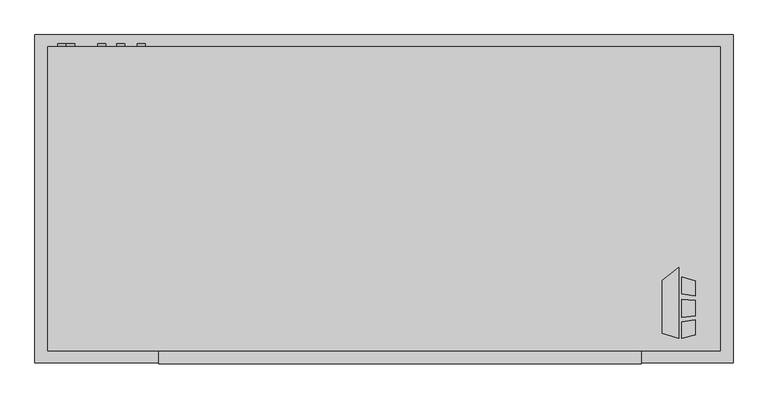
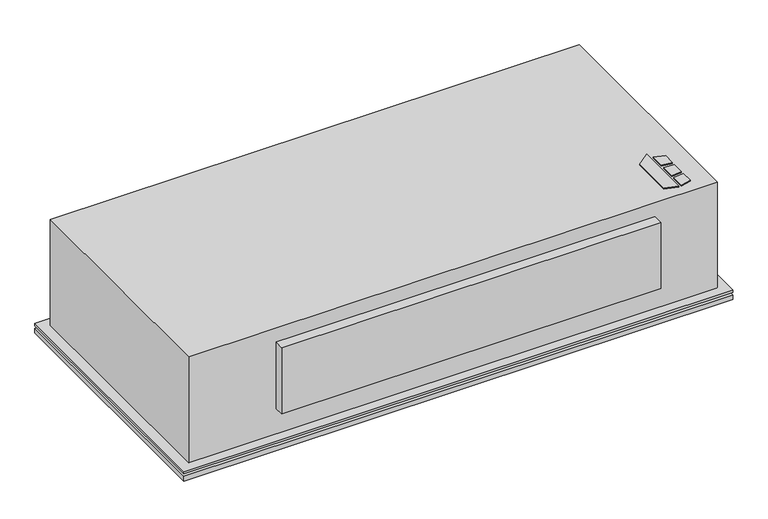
"""IFC4 building model written with IfcOpenShell, lengths in millimetres: proxy geometry, Horizontal_Telescoping_Fan_Coil_Unit_-_CBY_-_IEC_-_4-Pipe_LH_2022 : Size 08 - 277v/60Hz/1Ph - 4/1 Coil."""

import ifcopenshell
import ifcopenshell.guid

model = None  # the IFC model being written
_history = None  # IfcOwnerHistory: only IFC2X3 demands one
_inside = {}  # id of a spatial element -> (the spatial element, [elements in it])
_under = {}  # id of a project, library or spatial element -> (it, [spatial elements below it])
_declared = {}  # id of a project -> (the project, [libraries it declares])
_typed = {}  # id of a type object -> (the type object, [elements of that type])
_made_of = {}  # id of a material, layer set ... -> (it, [elements and type objects made of it])


def new_model(schema):
    """Start an empty IFC model of exactly this schema.

    Asked for "IFC4X3", IfcOpenShell would pick the latest addendum, in which some entities
    have other attributes; the version numbers below select the first issue.
    IFC2X3 requires an IfcOwnerHistory on every rooted entity: one is made here for all.
    """
    global model, _history
    if schema == "IFC4X3":
        model = ifcopenshell.file(schema_version=(4, 3, 0, 0))
    else:
        model = ifcopenshell.file(schema=schema)
    _inside.clear()
    _under.clear()
    _declared.clear()
    _typed.clear()
    _made_of.clear()
    _history = None
    if model.schema == "IFC2X3":
        org = make("IfcOrganization", Name="unknown")
        user = make(
            "IfcPersonAndOrganization",
            ThePerson=make("IfcPerson", FamilyName="unknown"),
            TheOrganization=org,
        )
        app = make(
            "IfcApplication",
            ApplicationDeveloper=org,
            Version="unknown",
            ApplicationFullName="unknown",
            ApplicationIdentifier="unknown",
        )
        _history = make(
            "IfcOwnerHistory",
            OwningUser=user,
            OwningApplication=app,
            ChangeAction="ADDED",
            CreationDate=0,
        )
    return model


def make(cls, **values):
    """One entity of the class cls with the attributes given. An attribute that is None is left unset."""
    return model.create_entity(
        cls, **{name: value for name, value in values.items() if value is not None}
    )


def rooted(cls, **values):
    """An entity with a GlobalId (a new one), such as an element, a storey or a relation."""
    return make(cls, GlobalId=ifcopenshell.guid.new(), OwnerHistory=_history, **values)


def si_unit(unit_type, name, prefix=None):
    """IfcSIUnit, for example si_unit("LENGTHUNIT", "METRE", prefix="MILLI")."""
    return make("IfcSIUnit", UnitType=unit_type, Prefix=prefix, Name=name)


def assignment(units):
    """IfcUnitAssignment: the units of a project."""
    return None if units is None else make("IfcUnitAssignment", Units=units)


def point(xyz):
    """IfcCartesianPoint."""
    return None if xyz is None else make("IfcCartesianPoint", Coordinates=xyz)


def direction(xyz):
    """IfcDirection."""
    return None if xyz is None else make("IfcDirection", DirectionRatios=xyz)


def frame(location, z_axis=None, x_axis=None):
    """IfcAxis2Placement3D, a coordinate frame: its origin and axes. An axis left out is left unset."""
    return make(
        "IfcAxis2Placement3D",
        Location=point(location),
        Axis=direction(z_axis),
        RefDirection=direction(x_axis),
    )


def frame_2d(location, x_axis=None):
    """IfcAxis2Placement2D, a coordinate frame in the plane: its origin and x axis."""
    return make(
        "IfcAxis2Placement2D", Location=point(location), RefDirection=direction(x_axis)
    )


def origin():
    """The frame at (0, 0, 0) with its axes left unset."""
    return frame((0.0, 0.0, 0.0))


def origin_with_axes():
    """The frame at (0, 0, 0) with the z axis (0, 0, 1) and the x axis (1, 0, 0) written out."""
    return frame((0.0, 0.0, 0.0), z_axis=(0.0, 0.0, 1.0), x_axis=(1.0, 0.0, 0.0))


def place(relative_to, where):
    """IfcLocalPlacement: puts the frame where relative to a parent placement (None: the world)."""
    return make(
        "IfcLocalPlacement", PlacementRelTo=relative_to, RelativePlacement=where
    )


def context(
    kind, dimensions, precision=None, world=None, true_north=None, identifier=None
):
    """IfcGeometricRepresentationContext, for example the 3D "Model" context."""
    return make(
        "IfcGeometricRepresentationContext",
        ContextIdentifier=identifier,
        ContextType=kind,
        CoordinateSpaceDimension=dimensions,
        Precision=precision,
        WorldCoordinateSystem=world,
        TrueNorth=true_north,
    )


def project(units=None, contexts=None):
    """IfcProject with its units and contexts."""
    return rooted(
        "IfcProject",
        Name="project",
        RepresentationContexts=contexts,
        UnitsInContext=assignment(units),
    )


def spatial(cls, under=None, at=None, **own):
    """A site, building, storey or space (cls), placed at a placement, below another one or the project."""
    s = rooted(cls, ObjectPlacement=at, **own)
    if under is not None:
        _under.setdefault(under.id(), (under, []))[1].append(s)
    return s


def polyline(points):
    """IfcPolyline through the points."""
    return make("IfcPolyline", Points=[point(p) for p in points])


def circle_curve(where, radius):
    """IfcCircle in the frame where."""
    return make("IfcCircle", Position=where, Radius=radius)


def trimmed(basis, trim1, trim2, sense, master):
    """IfcTrimmedCurve: the piece of a basis curve between two trims."""
    return make(
        "IfcTrimmedCurve",
        BasisCurve=basis,
        Trim1=trim1,
        Trim2=trim2,
        SenseAgreement=sense,
        MasterRepresentation=master,
    )


def segment(curve, same_sense, transition):
    """IfcCompositeCurveSegment."""
    return make(
        "IfcCompositeCurveSegment",
        Transition=transition,
        SameSense=same_sense,
        ParentCurve=curve,
    )


def composite_curve(segments, self_intersect=None):
    """IfcCompositeCurve: segments joined end to end."""
    return make("IfcCompositeCurve", Segments=segments, SelfIntersect=self_intersect)


def outline(outer, holes=None, kind="AREA"):
    """IfcArbitraryClosedProfileDef: a profile drawn as a closed curve; with holes, ...WithVoids."""
    if holes is None:
        return make("IfcArbitraryClosedProfileDef", ProfileType=kind, OuterCurve=outer)
    return make(
        "IfcArbitraryProfileDefWithVoids",
        ProfileType=kind,
        OuterCurve=outer,
        InnerCurves=holes,
    )


def extrude(swept, where, along, depth):
    """IfcExtrudedAreaSolid: the profile swept, set in the frame where, extruded along a direction by depth."""
    return make(
        "IfcExtrudedAreaSolid",
        SweptArea=swept,
        Position=where,
        ExtrudedDirection=direction(along),
        Depth=depth,
    )


def shape(context_of_items, identifier, shape_type, items):
    """IfcShapeRepresentation: the items that make up one representation, for example the "Body"."""
    return make(
        "IfcShapeRepresentation",
        ContextOfItems=context_of_items,
        RepresentationIdentifier=identifier,
        RepresentationType=shape_type,
        Items=items,
    )


def source(mapping_origin, context_of_items, identifier, shape_type, items):
    """IfcRepresentationMap: a shape defined once, which mapped items show again and again."""
    return make(
        "IfcRepresentationMap",
        MappingOrigin=mapping_origin,
        MappedRepresentation=shape(context_of_items, identifier, shape_type, items),
    )


def transform(
    local_origin,
    x_axis=None,
    y_axis=None,
    z_axis=None,
    scale=None,
    scale2=None,
    scale3=None,
    uniform=True,
):
    """IfcCartesianTransformationOperator3D, or its non-uniform kind. x_axis, y_axis, z_axis: its Axis1, 2, 3."""
    if uniform:
        return make(
            "IfcCartesianTransformationOperator3D",
            Axis1=direction(x_axis),
            Axis2=direction(y_axis),
            LocalOrigin=point(local_origin),
            Scale=scale,
            Axis3=direction(z_axis),
        )
    return make(
        "IfcCartesianTransformationOperator3DnonUniform",
        Axis1=direction(x_axis),
        Axis2=direction(y_axis),
        LocalOrigin=point(local_origin),
        Scale=scale,
        Axis3=direction(z_axis),
        Scale2=scale2,
        Scale3=scale3,
    )


def mapped(mapping_source, mapping_target):
    """IfcMappedItem: shows the shape of a source again, moved by a transform."""
    return make(
        "IfcMappedItem", MappingSource=mapping_source, MappingTarget=mapping_target
    )


def made_of(thing, what):
    """Note that an element or type object is made of a material, layer set ...; save() writes the relation."""
    if what is not None:
        _made_of.setdefault(what.id(), (what, []))[1].append(thing)
    return thing


def element(
    cls,
    number,
    at=None,
    inside=None,
    cuts=None,
    type_object=None,
    material=None,
    context=None,
    identifier="Body",
    shape_type=None,
    held_by="IfcProductDefinitionShape",
    body=None,
    shapes=None,
    **own,
):
    """One element of the class cls, such as IfcWall. Its Tag is "e" and its number.

    at: its placement. inside: the storey or other place that contains it. cuts: it is an
    opening in that element (IfcRelVoidsElement). A single representation is given by context,
    identifier, shape_type and body (its items); several are given by shapes. held_by: the class
    of the entity that holds the representations. save() writes the other relations.
    """
    e = rooted(cls, Tag="e%d" % number, ObjectPlacement=at, **own)
    if body is not None:
        shapes = [shape(context, identifier, shape_type, body)]
    if shapes is not None:
        e.Representation = make(held_by, Representations=shapes)
    if inside is not None:
        _inside.setdefault(inside.id(), (inside, []))[1].append(e)
    if cuts is not None:
        rooted(
            "IfcRelVoidsElement", RelatingBuildingElement=cuts, RelatedOpeningElement=e
        )
    if type_object is not None:
        _typed.setdefault(type_object.id(), (type_object, []))[1].append(e)
    return made_of(e, material)


def aggregate(whole, parts):
    """IfcRelAggregates: a whole, such as a stair, and the parts it consists of."""
    return rooted("IfcRelAggregates", RelatingObject=whole, RelatedObjects=parts)


def save(model, path):
    """Write the relations noted so far, then the file.

    IfcRelAggregates (storeys below a building ...), IfcRelContainedInSpatialStructure (elements
    in a storey), IfcRelDefinesByType, IfcRelAssociatesMaterial and IfcRelDeclares: one each for
    every whole, place, type object, material and project.
    """
    for whole, parts in _under.values():
        aggregate(whole, parts)
    for where, things in _inside.values():
        rooted(
            "IfcRelContainedInSpatialStructure",
            RelatedElements=things,
            RelatingStructure=where,
        )
    for kind, things in _typed.values():
        rooted("IfcRelDefinesByType", RelatedObjects=things, RelatingType=kind)
    for what, things in _made_of.values():
        rooted("IfcRelAssociatesMaterial", RelatedObjects=things, RelatingMaterial=what)
    for by, libraries in _declared.values():
        rooted("IfcRelDeclares", RelatingContext=by, RelatedDefinitions=libraries)
    model.write(path)


def mechanical_equipment_48fb63d9(model_context):
    return source(origin(), model_context, "Body", "SweptSolid", [
        extrude(outline(polyline([(709.3019761, -401.0078476), (741.8602728, -375.5705184), (741.8602728, -517.525), (709.3019761, -507.3054201), (709.3019761, -401.0078476)])), origin_with_axes(), (0.0, 0.0, 1.0), 3.175),
        extrude(outline(polyline([(748.6186058, -428.879852), (748.6186058, -394.3999379), (774.7, -402.5865115), (774.7, -432.0822446), (748.6186058, -428.879852)])), origin_with_axes(), (0.0, 0.0, 1.0), 3.175),
        extrude(outline(polyline([(774.7, -510.5365115), (748.6186058, -517.525), (748.6186058, -484.3036996), (774.7, -480.7618564), (774.7, -510.5365115)])), origin_with_axes(), (0.0, 0.0, 1.0), 3.175),
        extrude(outline(polyline([(774.7, -441.1638277), (774.7, -472.413983), (748.6186058, -475.155248), (748.6186058, -439.2975378), (774.7, -441.1638277)])), origin_with_axes(), (0.0, 0.0, 1.0), 3.175),
        extrude(outline(composite_curve([segment(trimmed(circle_curve(frame_2d((-60.325, -333.375)), 7.9375), [point((-60.325, -325.4375))], [point((-60.325, -341.3125))], False, "CARTESIAN"), True, "CONTINUOUS"), segment(trimmed(circle_curve(frame_2d((-60.325, -333.375)), 7.9375), [point((-60.325, -341.3125))], [point((-60.325, -325.4375))], False, "CARTESIAN"), True, "CONTINUOUS")], self_intersect=False)), frame((0.0, 66.675, 0.0), z_axis=(0.0, 1.0, 0.0), x_axis=(0.0, 0.0, 1.0)), (0.0, 0.0, 1.0), 6.35),
        extrude(outline(composite_curve([segment(trimmed(circle_curve(frame_2d((-95.25, -374.65)), 7.9375), [point((-95.25, -366.7125))], [point((-95.25, -382.5875))], False, "CARTESIAN"), True, "CONTINUOUS"), segment(trimmed(circle_curve(frame_2d((-95.25, -374.65)), 7.9375), [point((-95.25, -382.5875))], [point((-95.25, -366.7125))], False, "CARTESIAN"), True, "CONTINUOUS")], self_intersect=False)), frame((0.0, 66.675, 0.0), z_axis=(0.0, 1.0, 0.0), x_axis=(0.0, 0.0, 1.0)), (0.0, 0.0, 1.0), 6.35),
        extrude(outline(composite_curve([segment(trimmed(circle_curve(frame_2d((-44.45, -412.75)), 7.9375), [point((-44.45, -404.8125))], [point((-44.45, -420.6875))], False, "CARTESIAN"), True, "CONTINUOUS"), segment(trimmed(circle_curve(frame_2d((-44.45, -412.75)), 7.9375), [point((-44.45, -420.6875))], [point((-44.45, -404.8125))], False, "CARTESIAN"), True, "CONTINUOUS")], self_intersect=False)), frame((0.0, 66.675, 0.0), z_axis=(0.0, 1.0, 0.0), x_axis=(0.0, 0.0, 1.0)), (0.0, 0.0, 1.0), 6.35),
        extrude(outline(composite_curve([segment(trimmed(circle_curve(frame_2d((-85.725, -492.125)), 7.9375), [point((-85.725, -484.1875))], [point((-85.725, -500.0625))], False, "CARTESIAN"), True, "CONTINUOUS"), segment(trimmed(circle_curve(frame_2d((-85.725, -492.125)), 7.9375), [point((-85.725, -500.0625))], [point((-85.725, -484.1875))], False, "CARTESIAN"), True, "CONTINUOUS")], self_intersect=False)), frame((0.0, 66.675, 0.0), z_axis=(0.0, 1.0, 0.0), x_axis=(0.0, 0.0, 1.0)), (0.0, 0.0, 1.0), 6.35),
        extrude(outline(composite_curve([segment(trimmed(circle_curve(frame_2d((-260.35, -476.25)), 9.525), [point((-260.35, -466.725))], [point((-260.35, -485.775))], False, "CARTESIAN"), True, "CONTINUOUS"), segment(trimmed(circle_curve(frame_2d((-260.35, -476.25)), 9.525), [point((-260.35, -485.775))], [point((-260.35, -466.725))], False, "CARTESIAN"), True, "CONTINUOUS")], self_intersect=False)), frame((0.0, 66.675, 0.0), z_axis=(0.0, 1.0, 0.0), x_axis=(0.0, 0.0, 1.0)), (0.0, 0.0, 1.0), 6.35),
        extrude(outline(polyline([(850.9, 90.4875), (850.9, -566.7375), (-546.1, -566.7375), (-546.1, 90.4875), (850.9, 90.4875)])), frame((0.0, 0.0, -311.15), z_axis=(0.0, 0.0, 1.0), x_axis=(1.0, 0.0, 0.0)), (0.0, 0.0, 1.0), 12.7),
        extrude(outline(polyline([(850.9, 90.4875), (850.9, -566.7375), (-546.1, -566.7375), (-546.1, 90.4875), (850.9, 90.4875)])), frame((0.0, 0.0, -292.1), z_axis=(0.0, 0.0, 1.0), x_axis=(1.0, 0.0, 0.0)), (0.0, 0.0, 1.0), 6.35),
        extrude(outline(polyline([(825.5, 65.0875), (825.5, -541.3375), (-520.7, -541.3375), (-520.7, 65.0875), (825.5, 65.0875)])), frame((0.0, 0.0, -298.45), z_axis=(0.0, 0.0, 1.0), x_axis=(1.0, 0.0, 0.0)), (0.0, 0.0, 1.0), 6.35),
        extrude(outline(polyline([(666.75, -568.325), (-298.45, -568.325), (-298.45, -542.925), (666.75, -542.925), (666.75, -568.325)])), frame((0.0, 0.0, -215.9), z_axis=(0.0, 0.0, 1.0), x_axis=(1.0, 0.0, 0.0)), (0.0, 0.0, 1.0), 177.8),
        extrude(outline(polyline([(-520.7, 66.675), (825.5, 66.675), (825.5, -542.925), (-520.7, -542.925), (-520.7, 66.675)])), frame((0.0, 0.0, -285.75), z_axis=(0.0, 0.0, 1.0), x_axis=(1.0, 0.0, 0.0)), (0.0, 0.0, 1.0), 285.75),
        extrude(outline(polyline([(723.9, -9.525), (723.9, -263.525), (-419.1, -263.525), (-419.1, -9.525), (723.9, -9.525)])), frame((0.0, 0.0, -317.5), z_axis=(0.0, 0.0, 1.0), x_axis=(1.0, 0.0, 0.0)), (0.0, 0.0, 1.0), 6.35),
    ])


if __name__ == "__main__":
    model = new_model("IFC4")
    model_context = context("Model", 3, world=origin())
    ifc_project = project(units=[si_unit("LENGTHUNIT", "METRE", prefix="MILLI")], contexts=[model_context])
    site = spatial("IfcSite", under=ifc_project)
    building = spatial("IfcBuilding", under=site)
    placement = place(None, origin())
    mechanical_equipment_shape = mechanical_equipment_48fb63d9(model_context)
    element("IfcBuildingElementProxy", 1, Name="Horizontal_Telescoping_Fan_Coil_Unit_-_CBY_-_IEC_-_4-Pipe_LH_2022 : Size 08 - 277v/60Hz/1Ph - 4/1 Coil", ObjectType="Horizontal_Telescoping_Fan_Coil_Unit_-_CBY_-_IEC_-_4-Pipe_LH_2022 : Size 08 - 277v/60Hz/1Ph - 4/1 Coil", at=placement, inside=building, context=model_context, shape_type="MappedRepresentation", body=[
        mapped(mechanical_equipment_shape, transform((0.0, 0.0, 0.0), x_axis=(1.0, 0.0, 0.0), y_axis=(0.0, 1.0, 0.0), z_axis=(0.0, 0.0, 1.0))),
    ])
    save(model, "model.ifc")
